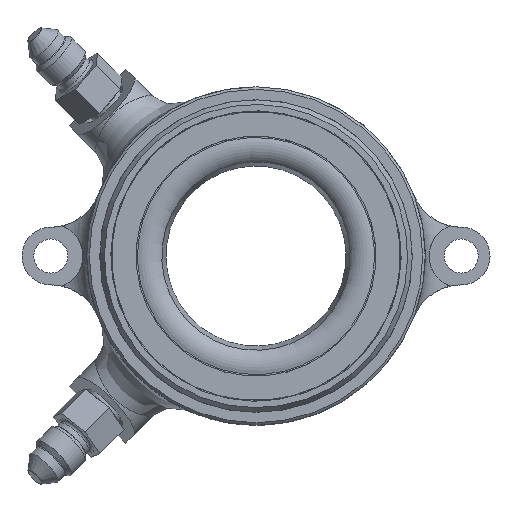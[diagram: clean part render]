
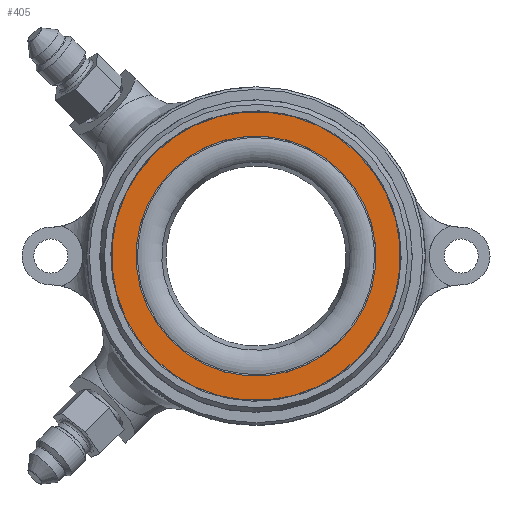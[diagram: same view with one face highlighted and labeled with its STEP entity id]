
A CAD part, left-side view. The second image highlights one B-rep face of the part: STEP entity #405.
In plain terms, the highlighted planar face has unit normal (-1, 0, 0).
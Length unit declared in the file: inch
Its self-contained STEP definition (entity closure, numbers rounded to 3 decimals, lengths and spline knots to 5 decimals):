
#405 = ADVANCED_FACE( '', ( #903, #904 ), #905, .T. );
#903 = FACE_BOUND( '', #2434, .T. );
#904 = FACE_OUTER_BOUND( '', #2435, .T. );
#905 = PLANE( '', #2436 );
#2434 = EDGE_LOOP( '', ( #3498 ) );
#2435 = EDGE_LOOP( '', ( #3499 ) );
#2436 = AXIS2_PLACEMENT_3D( '', #3500, #3501, #3502 );
#3498 = ORIENTED_EDGE( '', *, *, #3917, .F. );
#3499 = ORIENTED_EDGE( '', *, *, #3894, .T. );
#3500 = CARTESIAN_POINT( '', ( -1.28936, 0., 0. ) );
#3501 = DIRECTION( '', ( -1., 0., 0. ) );
#3502 = DIRECTION( '', ( 0., 0., 1. ) );
#3894 = EDGE_CURVE( '', #4542, #4542, #4543, .T. );
#3917 = EDGE_CURVE( '', #4570, #4570, #4571, .T. );
#4542 = VERTEX_POINT( '', #6755 );
#4543 = CIRCLE( '', #6756, 1.12625 );
#4570 = VERTEX_POINT( '', #6787 );
#4571 = CIRCLE( '', #6788, 0.93625 );
#6755 = CARTESIAN_POINT( '', ( -1.28936, 0.79638, -0.79638 ) );
#6756 = AXIS2_PLACEMENT_3D( '', #7201, #7202, #7203 );
#6787 = CARTESIAN_POINT( '', ( -1.28936, 0.66203, -0.66203 ) );
#6788 = AXIS2_PLACEMENT_3D( '', #7220, #7221, #7222 );
#7201 = CARTESIAN_POINT( '', ( -1.28936, 0., 0. ) );
#7202 = DIRECTION( '', ( -1., 0., 0. ) );
#7203 = DIRECTION( '', ( 0., 0.707, -0.707 ) );
#7220 = CARTESIAN_POINT( '', ( -1.28936, 0., 0. ) );
#7221 = DIRECTION( '', ( -1., 0., 0. ) );
#7222 = DIRECTION( '', ( 0., 0.707, -0.707 ) );
